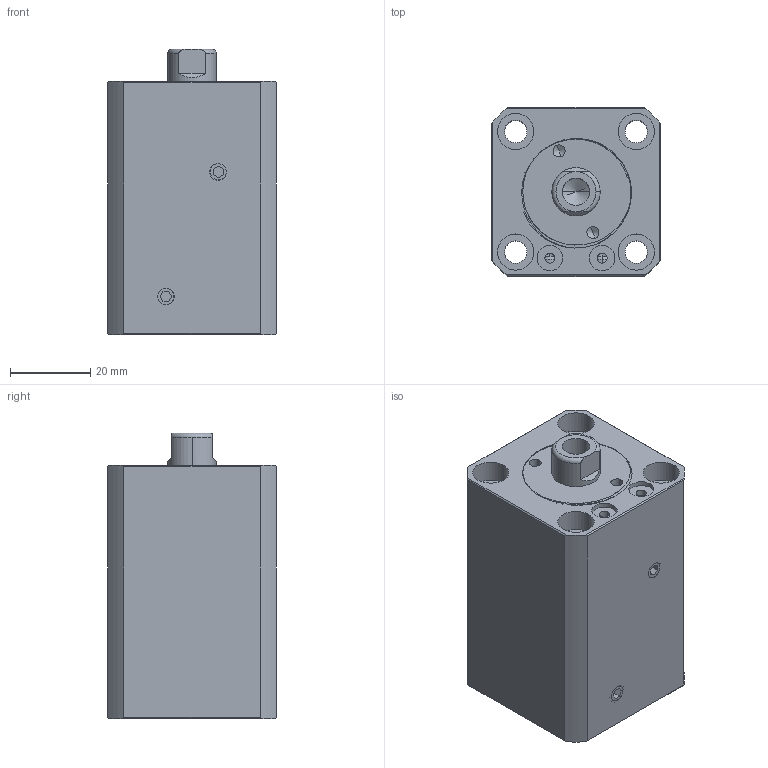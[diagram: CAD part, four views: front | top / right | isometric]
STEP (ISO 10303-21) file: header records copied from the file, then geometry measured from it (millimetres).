
FILE_DESCRIPTION (( 'STEP AP214' ), '1' );
FILE_NAME ('chtb-sdma20x20n_asm.STEP', '2018-05-18T03:31:09', ( '' ), ( '' ), 'SwSTEP 2.0', 'SolidWorks 2016', '' );
FILE_SCHEMA (( 'AUTOMOTIVE_DESIGN' ));
Length unit declared in the file: millimetre
Products named in the file (5): socket set screw flat point_iso_ISO 4026 - M5 x 5-N; QG_3; CHTB-SDMA20X20NHSG; CHTB-SDMA20X20NBT; chtb-sdma20x20n_asm
Assembly tree (5 placements, depth 2):
  chtb-sdma20x20n_asm
    CHTB-SDMA20X20NBT
    CHTB-SDMA20X20NHSG
    QG_3
    socket set screw flat point_iso_ISO 4026 - M5 x 5-N  x2
Bounding box: 42 x 42 x 71 mm (x, y, z)
Volume: 95625.4 mm3; surface area: 31582.4 mm2
Topology: 5 solids, 5 shells, 232 faces, 602 edges, 396 vertices
Faces by surface type: cylinder 111, plane 61, torus 25, bspline 21, cone 14
Entity records: 12042 total; most frequent: CARTESIAN_POINT 6742, ORIENTED_EDGE 1128, DIRECTION 1000, EDGE_CURVE 564, AXIS2_PLACEMENT_3D 415, VERTEX_POINT 376, EDGE_LOOP 256, ADVANCED_FACE 217
